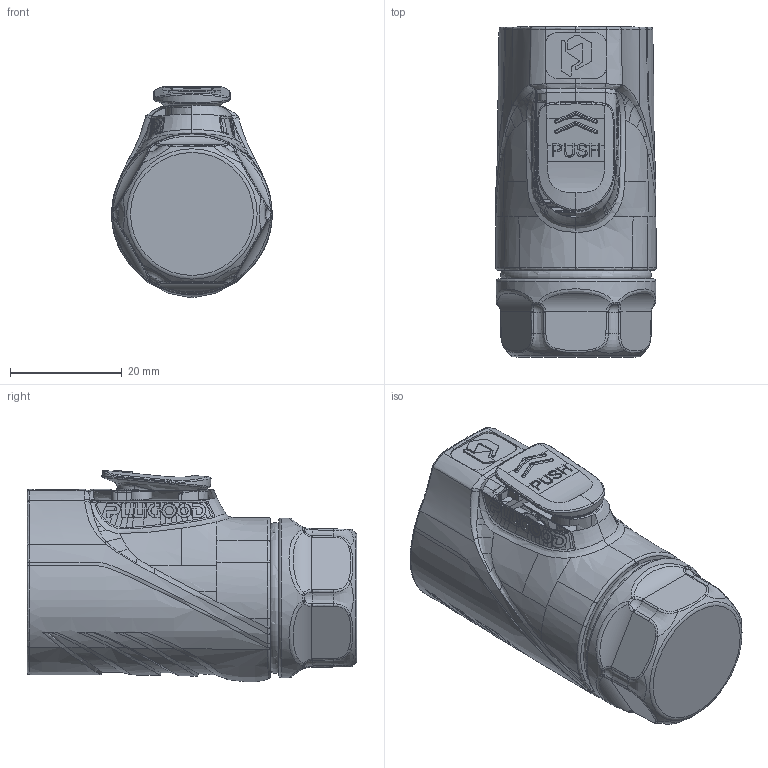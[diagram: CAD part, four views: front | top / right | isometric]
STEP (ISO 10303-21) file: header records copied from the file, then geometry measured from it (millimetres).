
FILE_DESCRIPTION (( 'STEP AP203' ), '1' );
FILE_NAME ('PLG20 12Ð¾²åÍ·.STEP', '2025-03-20T02:17:45', ( '' ), ( '' ), 'SwSTEP 2.0', 'SolidWorks 2024', '' );
FILE_SCHEMA (( 'CONFIG_CONTROL_DESIGN' ));
Products named in the file (1): PLG20 12芯插头
Bounding box: 28.77 x 59.1 x 37.93 mm (x, y, z)
Topology: 2 solids, 7 shells, 1338 faces, 3608 edges, 2310 vertices
Faces by surface type: bspline 728, plane 348, cylinder 148, torus 54, cone 38, sphere 22
Full cylindrical faces by diameter (mm): 1 x12, 1.15 x12, 1.5 x2, 1.519 x1, 1.6 x2, 2.5 x1, 2.65 x1, 4.5 x1, 16.2 x1, 17.5 x1, 17.6 x1, 19.2 x2, 19.3 x2, 19.4 x2, 22.033 x3, 28.6 x1
Entity records: 98532 total; most frequent: CARTESIAN_POINT 72052, ORIENTED_EDGE 6852, EDGE_CURVE 3426, DIRECTION 3112, VERTEX_POINT 2232, B_SPLINE_CURVE_WITH_KNOTS 1922, EDGE_LOOP 1478, FACE_OUTER_BOUND 1400
